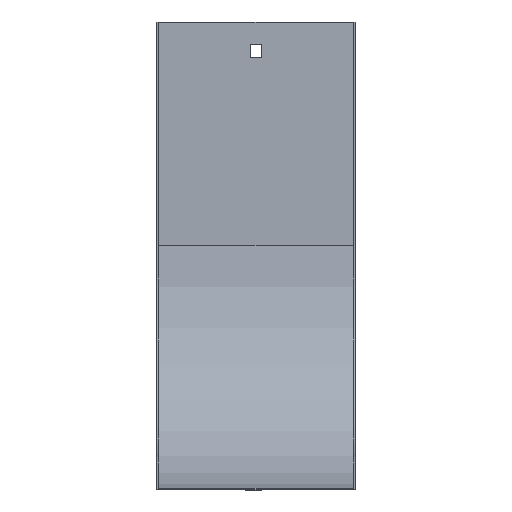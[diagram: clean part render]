
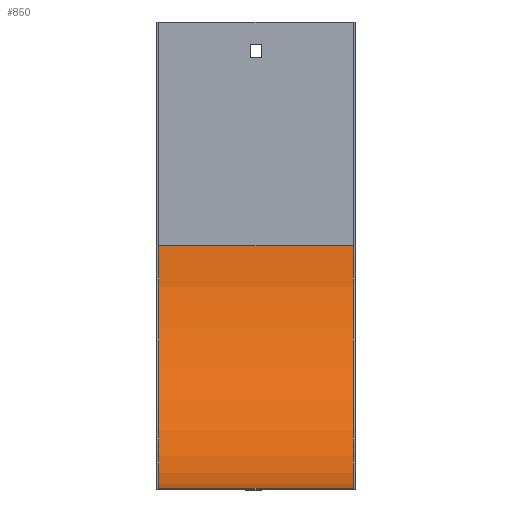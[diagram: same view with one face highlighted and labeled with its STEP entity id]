
A CAD part, front view. The second image highlights one B-rep face of the part: STEP entity #850.
In plain terms, the highlighted cylindrical face has radius 125 mm (diameter 250 mm), a partial arc.
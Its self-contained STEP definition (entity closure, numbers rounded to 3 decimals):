
#37 = ORIENTED_EDGE ( 'NONE', *, *, #679, .F. ) ;
#83 = VERTEX_POINT ( 'NONE', #715 ) ;
#101 = AXIS2_PLACEMENT_3D ( 'NONE', #455, #713, #793 ) ;
#114 = CIRCLE ( 'NONE', #550, 125. ) ;
#158 = DIRECTION ( 'NONE',  ( 0., 0., 1. ) ) ;
#160 = VERTEX_POINT ( 'NONE', #320 ) ;
#167 = CARTESIAN_POINT ( 'NONE',  ( -50., -1., -115. ) ) ;
#196 = CARTESIAN_POINT ( 'NONE',  ( -50., -126., -115. ) ) ;
#213 = LINE ( 'NONE', #421, #555 ) ;
#232 = CARTESIAN_POINT ( 'NONE',  ( 51., -1., -115. ) ) ;
#268 = VECTOR ( 'NONE', #767, 1000. ) ;
#296 = EDGE_LOOP ( 'NONE', ( #37, #642, #852, #749 ) ) ;
#306 = CARTESIAN_POINT ( 'NONE',  ( 50., -126., -115. ) ) ;
#308 = LINE ( 'NONE', #232, #268 ) ;
#320 = CARTESIAN_POINT ( 'NONE',  ( 50., -126., -240. ) ) ;
#342 = EDGE_CURVE ( 'NONE', #160, #365, #213, .T. ) ;
#365 = VERTEX_POINT ( 'NONE', #478 ) ;
#421 = CARTESIAN_POINT ( 'NONE',  ( 51., -126., -240. ) ) ;
#455 = CARTESIAN_POINT ( 'NONE',  ( 51., -126., -115. ) ) ;
#466 = DIRECTION ( 'NONE',  ( 1., 0., 0. ) ) ;
#478 = CARTESIAN_POINT ( 'NONE',  ( -50., -126., -240. ) ) ;
#526 = EDGE_CURVE ( 'NONE', #160, #83, #589, .T. ) ;
#550 = AXIS2_PLACEMENT_3D ( 'NONE', #196, #466, #726 ) ;
#555 = VECTOR ( 'NONE', #736, 1000. ) ;
#589 = CIRCLE ( 'NONE', #747, 125. ) ;
#642 = ORIENTED_EDGE ( 'NONE', *, *, #342, .F. ) ;
#679 = EDGE_CURVE ( 'NONE', #365, #808, #114, .T. ) ;
#710 = FACE_OUTER_BOUND ( 'NONE', #296, .T. ) ;
#713 = DIRECTION ( 'NONE',  ( -1., 0., 0. ) ) ;
#715 = CARTESIAN_POINT ( 'NONE',  ( 50., -1., -115. ) ) ;
#726 = DIRECTION ( 'NONE',  ( 0., 0., 1. ) ) ;
#736 = DIRECTION ( 'NONE',  ( -1., 0., 0. ) ) ;
#747 = AXIS2_PLACEMENT_3D ( 'NONE', #306, #756, #158 ) ;
#749 = ORIENTED_EDGE ( 'NONE', *, *, #803, .T. ) ;
#756 = DIRECTION ( 'NONE',  ( 1., 0., 0. ) ) ;
#767 = DIRECTION ( 'NONE',  ( -1., 0., 0. ) ) ;
#777 = CYLINDRICAL_SURFACE ( 'NONE', #101, 125. ) ;
#793 = DIRECTION ( 'NONE',  ( 0., 0., 1. ) ) ;
#803 = EDGE_CURVE ( 'NONE', #83, #808, #308, .T. ) ;
#808 = VERTEX_POINT ( 'NONE', #167 ) ;
#850 = ADVANCED_FACE ( 'NONE', ( #710 ), #777, .F. ) ;
#852 = ORIENTED_EDGE ( 'NONE', *, *, #526, .T. ) ;
